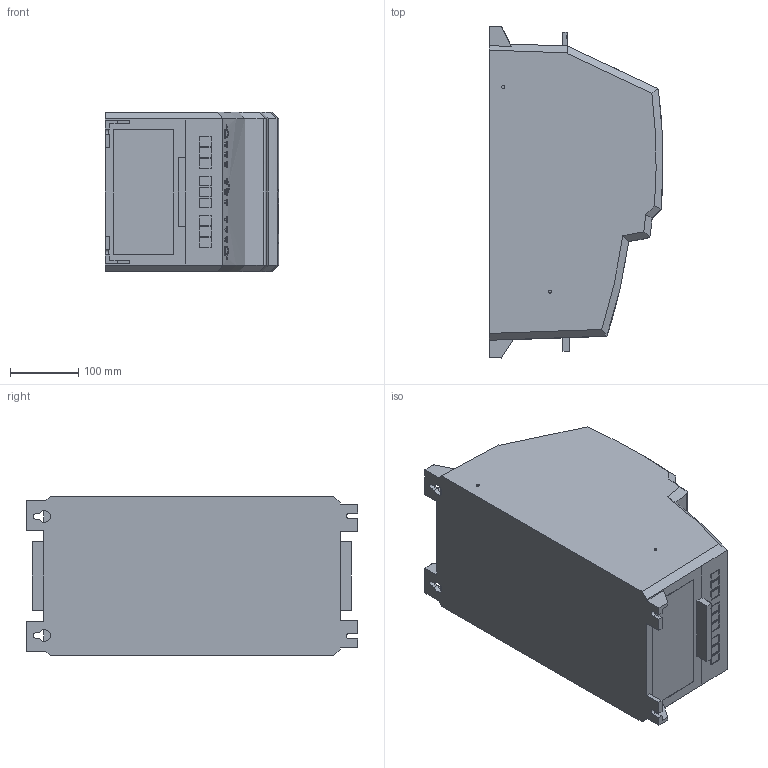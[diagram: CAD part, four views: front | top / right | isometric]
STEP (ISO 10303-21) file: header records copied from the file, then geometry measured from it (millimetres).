
FILE_DESCRIPTION (( 'STEP AP214' ), '1' );
FILE_NAME ('ECO S5 IP20.STEP', '2017-08-15T14:01:09', ( '' ), ( '' ), 'SwSTEP 2.0', 'SolidWorks 2017', '' );
FILE_SCHEMA (( 'AUTOMOTIVE_DESIGN' ));
Length unit declared in the file: millimetre
Products named in the file (1): ECO S5 IP20
Bounding box: 254.87 x 486.12 x 234 mm (x, y, z)
Volume: 21940313.6 mm3; surface area: 506225.8 mm2
Topology: 1 solids, 1 shells, 750 faces, 1986 edges, 1325 vertices
Faces by surface type: plane 455, bspline 235, cylinder 57, cone 3
Entity records: 35969 total; most frequent: CARTESIAN_POINT 19653, ORIENTED_EDGE 3972, DIRECTION 2257, EDGE_CURVE 1986, VERTEX_POINT 1325, VECTOR 1077, LINE 1077, EDGE_LOOP 841
